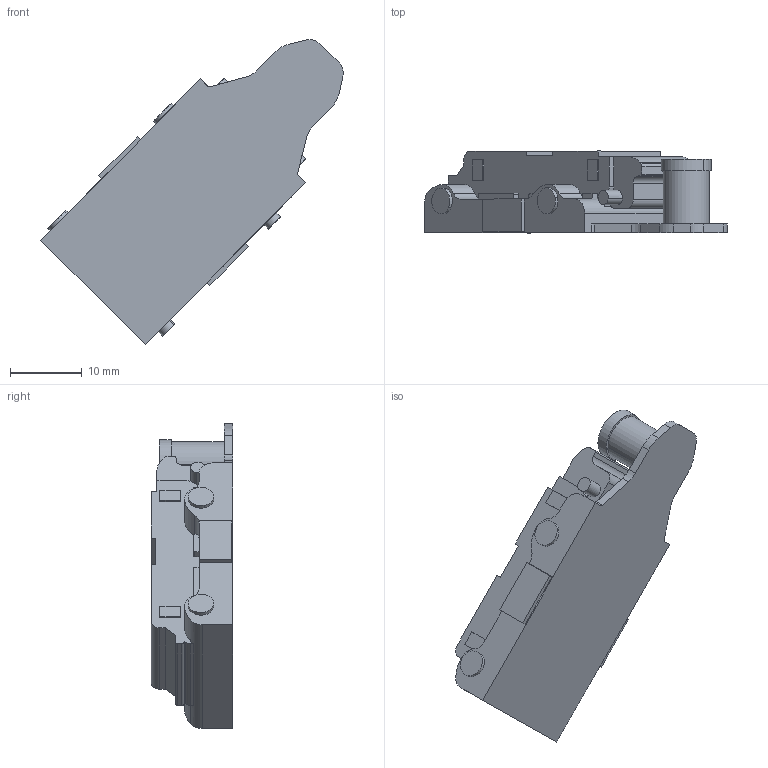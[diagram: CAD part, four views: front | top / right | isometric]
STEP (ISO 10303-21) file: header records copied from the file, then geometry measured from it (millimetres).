
FILE_DESCRIPTION (( 'STEP AP203' ), '1' );
FILE_NAME ('82H22YQ105-DTC 3D.STEP', '2024-07-11T03:14:25', ( '微软用户' ), ( '微软中国' ), 'SwSTEP 2.0', 'SolidWorks 2021', '' );
FILE_SCHEMA (( 'CONFIG_CONTROL_DESIGN' ));
Length unit declared in the file: millimetre
Products named in the file (1): 82H22YQ105-DTC 3D
Bounding box: 42.28 x 11.4 x 42.59 mm (x, y, z)
Volume: 6609.9 mm3; surface area: 3256.4 mm2
Topology: 1 solids, 1 shells, 165 faces, 454 edges, 303 vertices
Faces by surface type: plane 105, cylinder 58, bspline 2
Entity records: 5374 total; most frequent: CARTESIAN_POINT 976, ORIENTED_EDGE 908, DIRECTION 901, EDGE_CURVE 454, VECTOR 325, LINE 325, VERTEX_POINT 303, AXIS2_PLACEMENT_3D 288
